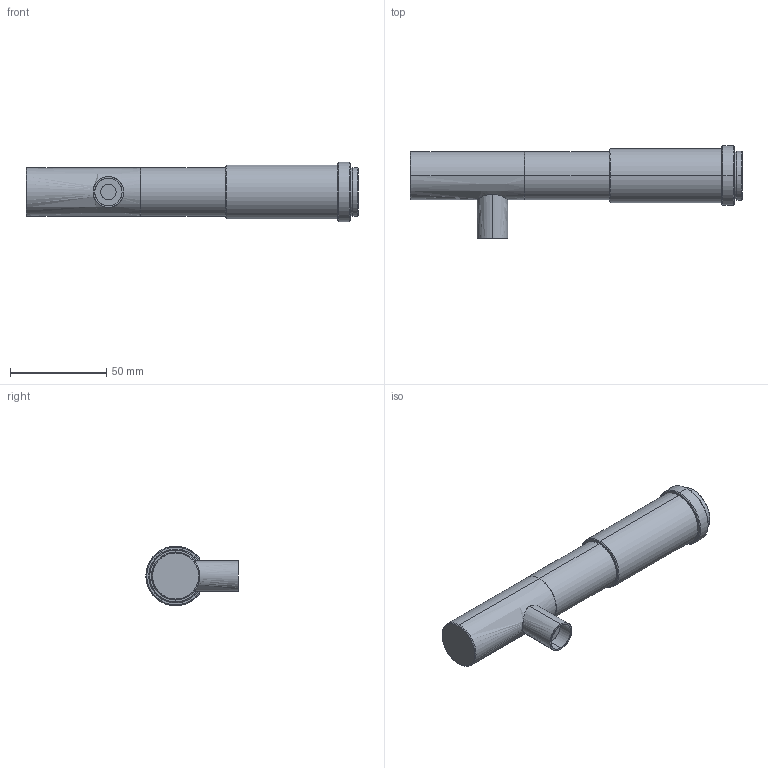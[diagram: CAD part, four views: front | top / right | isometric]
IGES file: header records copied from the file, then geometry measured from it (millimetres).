
Start section: SolidWorks IGES file using analytic representation for surfaces
Bounding box: 172.7 x 48 x 31 mm (x, y, z)
Surface area: 17260.7 mm2 (no closed solid volume)
Topology: 0 solids, 0 shells, 42 faces, 734 edges, 734 vertices
Faces by surface type: revolution 34, bspline 8
